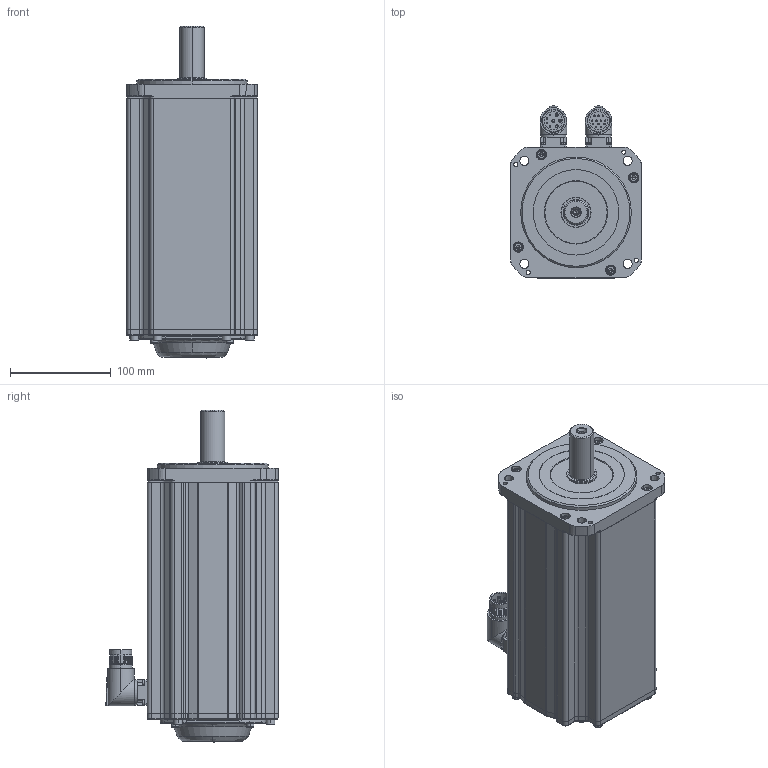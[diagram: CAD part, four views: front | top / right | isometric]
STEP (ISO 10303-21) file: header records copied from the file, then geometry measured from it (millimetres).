
FILE_DESCRIPTION (( 'STEP AP203' ), '1' );
FILE_NAME ('MC20-130-3L30-N502-1¡õPL-NNNN.STEP', '2025-07-29T14:51:42', ( '' ), ( '' ), 'SwSTEP 2.0', 'SolidWorks 2014', '' );
FILE_SCHEMA (( 'CONFIG_CONTROL_DESIGN' ));
Length unit declared in the file: millimetre
Products named in the file (1): MC20-130-3L30-N502-1¡õPL-NNNN
Bounding box: 130 x 171.35 x 330.2 mm (x, y, z)
Volume: 3980192 mm3; surface area: 326960.3 mm2
Topology: 28 solids, 28 shells, 2022 faces, 4794 edges, 2857 vertices
Faces by surface type: plane 733, cylinder 567, cone 358, bspline 204, torus 148, sphere 12
Entity records: 62084 total; most frequent: CARTESIAN_POINT 16785, DIRECTION 9523, ORIENTED_EDGE 9364, EDGE_CURVE 4682, AXIS2_PLACEMENT_3D 3694, VERTEX_POINT 2857, EDGE_LOOP 2269, VECTOR 2135
